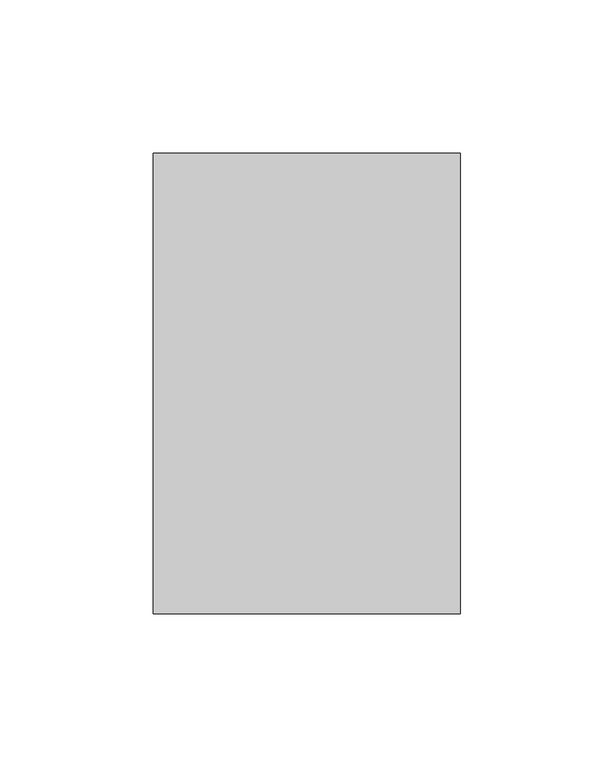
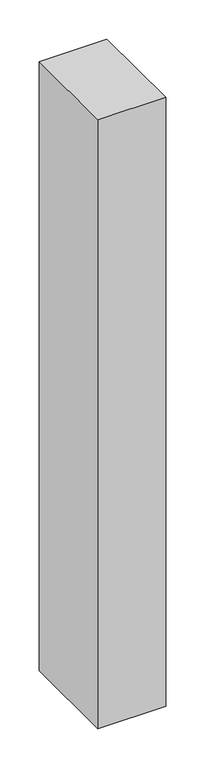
"""IFC4 building model written with IfcOpenShell, lengths in millimetres: member geometry, 矩形竖梃 : 教学楼 – 矩形竖梃 – 100x150mm."""

from ifc_helpers import new_model, si_unit, frame, origin, place, context, project, spatial, polyline, outline, extrude, source, transform, mapped, element, save


def member_d4bc27cc(model_context):
    return source(origin(), model_context, "Body", "SweptSolid", [
        extrude(outline(polyline([(0.0, 75.0), (0.0, -75.0), (-100.0, -75.0), (-100.0, 75.0), (0.0, 75.0)])), frame((0.0, 0.0, -950.0), z_axis=(0.0, 0.0, 1.0), x_axis=(1.0, 0.0, 0.0)), (0.0, 0.0, 1.0), 950.0),
    ])


if __name__ == "__main__":
    model = new_model("IFC4")
    model_context = context("Model", 3, world=origin())
    ifc_project = project(units=[si_unit("LENGTHUNIT", "METRE", prefix="MILLI")], contexts=[model_context])
    site = spatial("IfcSite", under=ifc_project)
    building = spatial("IfcBuilding", under=site)
    placement = place(None, origin())
    member_shape = member_d4bc27cc(model_context)
    element("IfcMember", 1, ObjectType="矩形竖梃 : 教学楼 – 矩形竖梃 – 100x150mm", at=placement, inside=building, context=model_context, shape_type="MappedRepresentation", body=[
        mapped(member_shape, transform((0.0, 0.0, 0.0), x_axis=(1.0, 0.0, 0.0), y_axis=(0.0, 1.0, 0.0), z_axis=(0.0, 0.0, 1.0))),
    ])
    save(model, "model.ifc")
